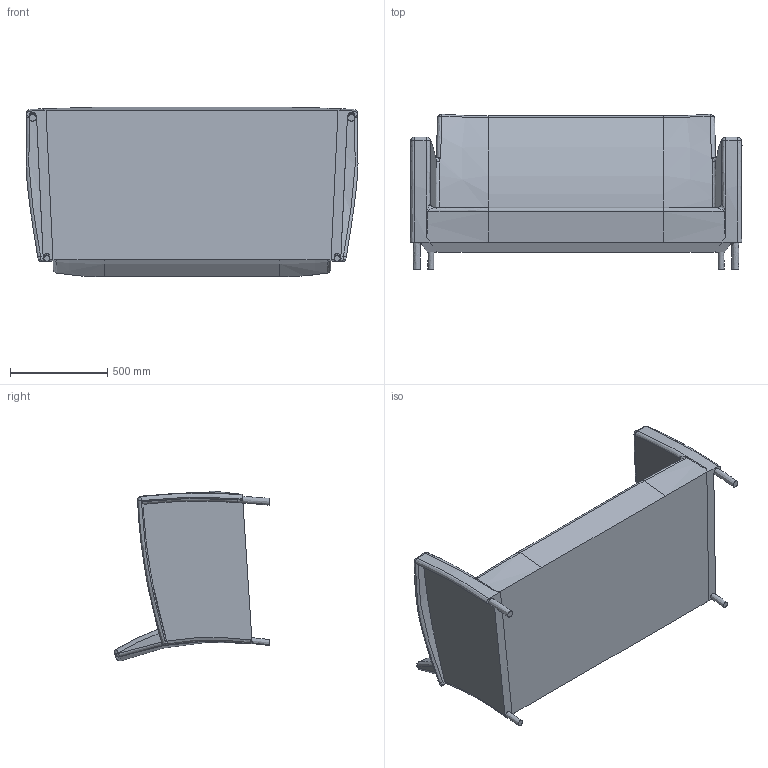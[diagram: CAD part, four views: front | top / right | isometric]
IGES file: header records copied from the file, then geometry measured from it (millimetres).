
Global section: file name: VincentSheppard_Cordoba2; native system: unknown; preprocessor: unknown; author: ict@vincentsheppard.com; organization: unknown; date: 20180515.152724; units: millimetre
Bounding box: 1704.59 x 797.81 x 871.81 mm (x, y, z)
Volume: 313473529.8 mm3; surface area: 5958016.2 mm2
Topology: 1 solids, 1 shells, 120 faces, 312 edges, 196 vertices
Faces by surface type: bspline 120
